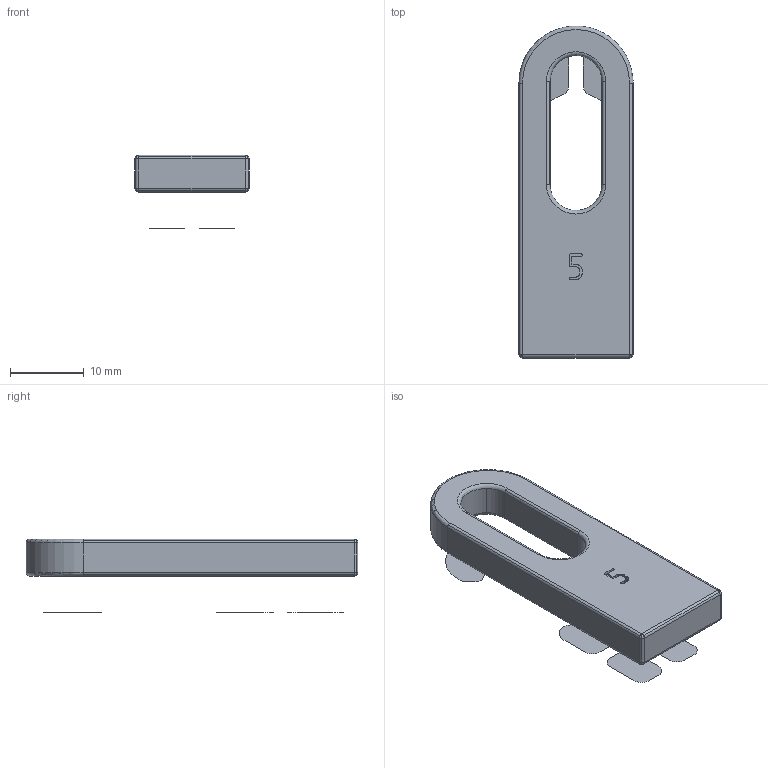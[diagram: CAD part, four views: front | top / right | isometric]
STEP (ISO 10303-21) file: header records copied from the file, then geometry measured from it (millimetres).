
FILE_DESCRIPTION(('STEP AP214'),'1');
FILE_NAME('BF-20240124-cad-shim1_5mm_light-02cbr.stp','2024-01-24T17:54:29',(' '),(' '),'Spatial InterOp 3D',' ',' ');
FILE_SCHEMA(('AUTOMOTIVE_DESIGN { 1 0 10303 214 1 1 1 1 }'));
Length unit declared in the file: metre
Products named in the file (1): Volumenkörper
Bounding box: 15.5 x 44.99 x 10 mm (x, y, z)
Volume: 2261.7 mm3; surface area: 2247.7 mm2
Topology: 1 solids, 7 shells, 244 faces, 651 edges, 414 vertices
Faces by surface type: cylinder 120, plane 46, torus 42, extrusion 28, sphere 8
Entity records: 7770 total; most frequent: CARTESIAN_POINT 1553, DIRECTION 1369, ORIENTED_EDGE 1234, EDGE_CURVE 643, AXIS2_PLACEMENT_3D 534, VERTEX_POINT 412, CIRCLE 314, VECTOR 301
